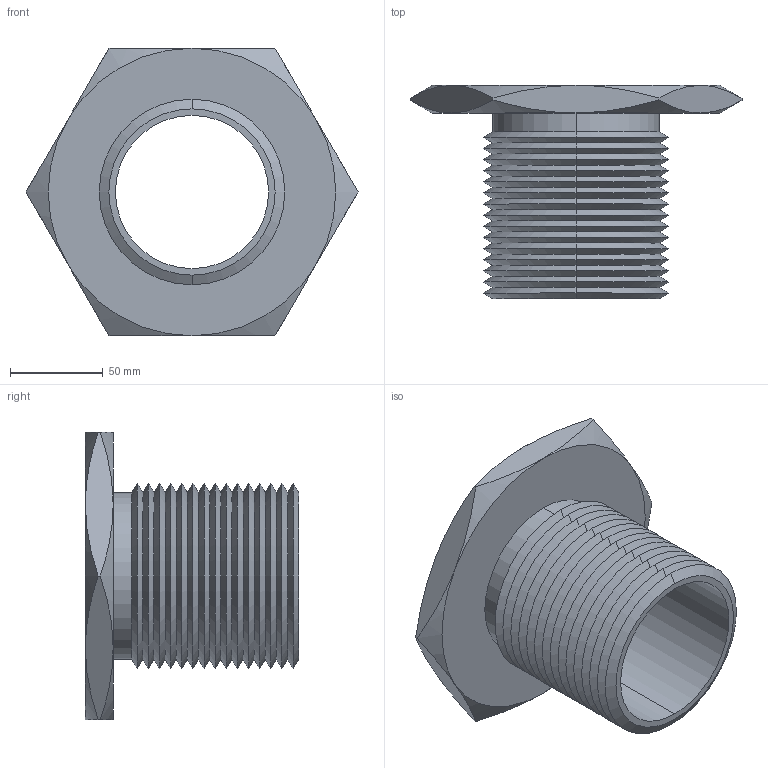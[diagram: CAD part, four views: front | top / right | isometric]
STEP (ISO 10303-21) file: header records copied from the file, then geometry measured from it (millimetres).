
FILE_DESCRIPTION (( 'STEP AP203' ), '1' );
FILE_NAME ('63302.W0100_3,25 UNC-4.step', '2013-12-08T11:35:08', ( 'User' ), ( '' ), 'SwSTEP 2.0', 'SolidWorks 2009', '' );
FILE_SCHEMA (( 'CONFIG_CONTROL_DESIGN' ));
Length unit declared in the file: millimetre
Products named in the file (1): 63302.W0100_3,25 UNC-4
Bounding box: 178.98 x 115 x 155 mm (x, y, z)
Volume: 382030.2 mm3; surface area: 122349.2 mm2
Topology: 1 solids, 1 shells, 87 faces, 178 edges, 94 vertices
Faces by surface type: cone 74, plane 9, cylinder 4
Entity records: 2479 total; most frequent: CARTESIAN_POINT 584, DIRECTION 412, ORIENTED_EDGE 356, EDGE_CURVE 178, AXIS2_PLACEMENT_3D 170, VERTEX_POINT 94, EDGE_LOOP 90, ADVANCED_FACE 87
